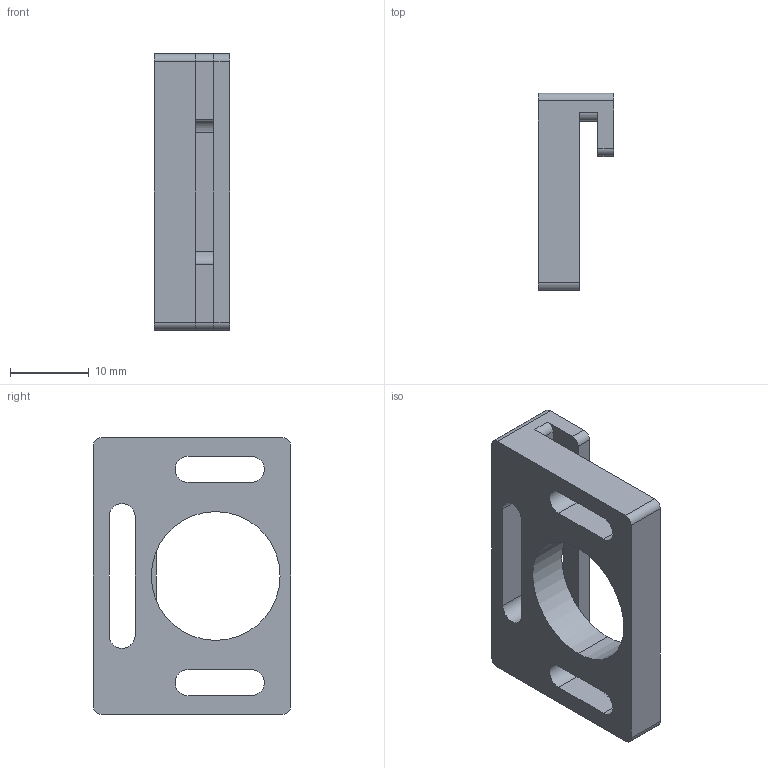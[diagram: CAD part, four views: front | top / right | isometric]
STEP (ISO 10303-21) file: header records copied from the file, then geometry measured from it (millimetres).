
FILE_DESCRIPTION (( 'STEP AP203' ), '1' );
FILE_NAME ('support_Rlt_axe_moteur.STEP', '2020-03-27T11:26:05', ( '' ), ( '' ), 'SwSTEP 2.0', 'SolidWorks 2020', '' );
FILE_SCHEMA (( 'CONFIG_CONTROL_DESIGN' ));
Length unit declared in the file: millimetre
Products named in the file (1): support_Rlt_axe_moteur
Bounding box: 9.5 x 25 x 35 mm (x, y, z)
Volume: 3456.6 mm3; surface area: 3118.1 mm2
Topology: 1 solids, 1 shells, 36 faces, 108 edges, 72 vertices
Faces by surface type: cylinder 18, plane 18
Entity records: 1329 total; most frequent: DIRECTION 222, CARTESIAN_POINT 217, ORIENTED_EDGE 216, EDGE_CURVE 108, AXIS2_PLACEMENT_3D 77, VERTEX_POINT 72, VECTOR 68, LINE 68
